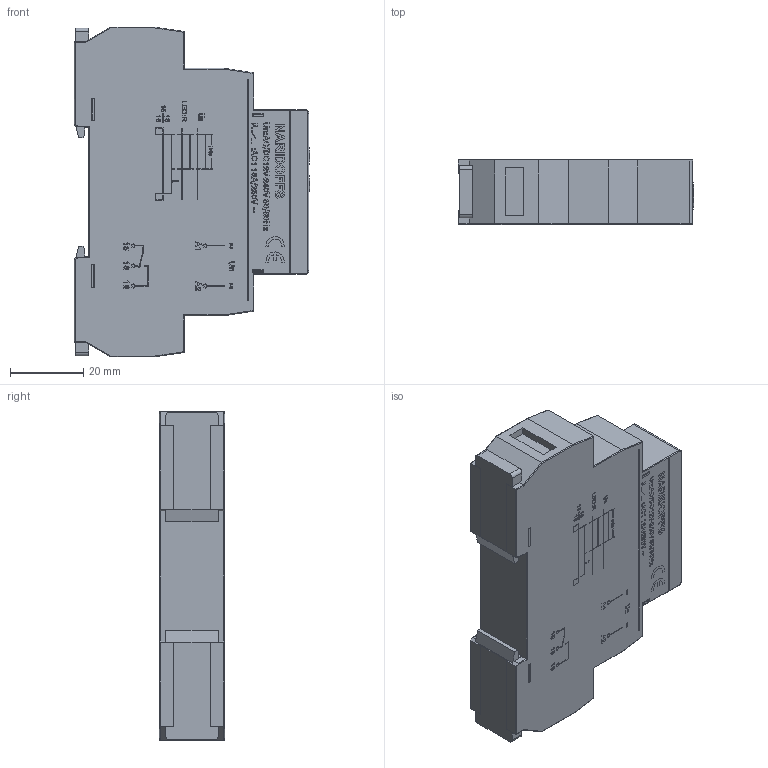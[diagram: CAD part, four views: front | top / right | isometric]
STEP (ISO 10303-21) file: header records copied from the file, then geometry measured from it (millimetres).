
FILE_DESCRIPTION (( 'STEP AP214' ), '1' );
FILE_NAME ('NARIDOFFS.STEP', '2026-03-23T09:03:02', ( '' ), ( '' ), 'SwSTEP 2.0', 'SolidWorks 2025', '' );
FILE_SCHEMA (( 'AUTOMOTIVE_DESIGN' ));
Length unit declared in the file: millimetre
Products named in the file (1): NARIDOFFS
Bounding box: 64.27 x 17.8 x 90 mm (x, y, z)
Volume: 78891.7 mm3; surface area: 15413.4 mm2
Topology: 1 solids, 1 shells, 636 faces, 3677 edges, 3331 vertices
Faces by surface type: plane 503, cylinder 97, cone 26, bspline 10
Entity records: 44510 total; most frequent: CARTESIAN_POINT 8946, ORIENTED_EDGE 7346, DIRECTION 4939, EDGE_CURVE 3673, VERTEX_POINT 3331, LINE 3329, VECTOR 3329, EDGE_LOOP 928
